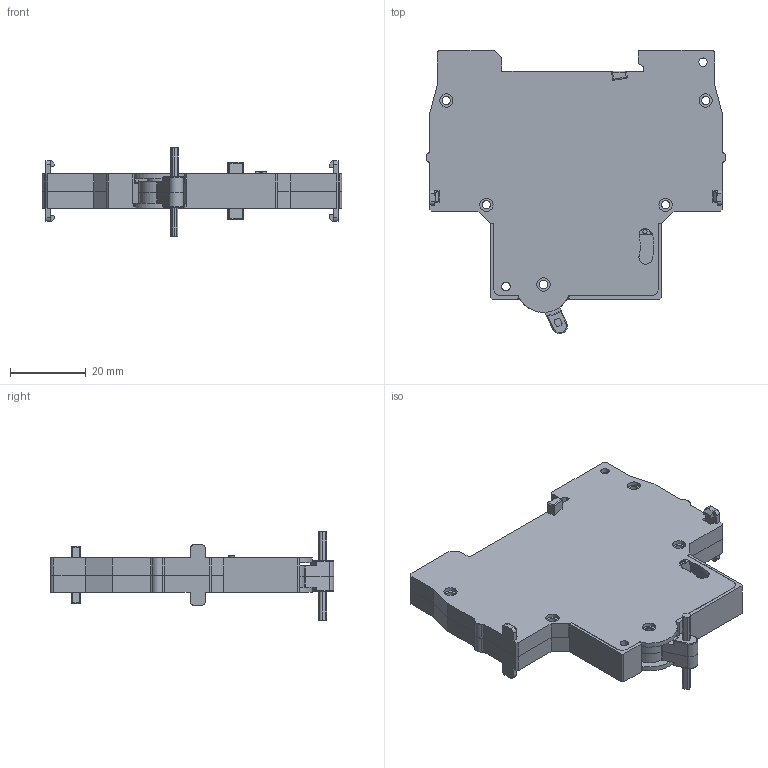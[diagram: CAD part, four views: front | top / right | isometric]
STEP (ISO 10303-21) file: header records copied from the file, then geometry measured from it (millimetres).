
FILE_DESCRIPTION((''),'2;1');
FILE_NAME('NXB-HS_ASM','2022-07-04T',('Administrator'),(''),'PRO/ENGINEER BY PARAMETRIC TECHNOLOGY CORPORATION, 2008380','PRO/ENGINEER BY PARAMETRIC TECHNOLOGY CORPORATION, 2008380','');
FILE_SCHEMA(('CONFIG_CONTROL_DESIGN'));
Length unit declared in the file: millimetre
Products named in the file (9): PRT0037; PRT0038; ASM0004_ASM_ASM; ASM0003_ASM_ASM; SHOUBING-XIA; SHOUBING-SHANG; HS-JIGOUXIA; HS-JIGOUSHANG; NXB-HS_ASM
Assembly tree (8 placements, depth 4):
  NXB-HS_ASM
    ASM0003_ASM_ASM
      ASM0004_ASM_ASM
        PRT0037
        PRT0038
    SHOUBING-XIA
    SHOUBING-SHANG
    HS-JIGOUXIA
    HS-JIGOUSHANG
Bounding box: 78.86 x 74.56 x 23.3 mm (x, y, z)
Volume: 16216.8 mm3; surface area: 25062.5 mm2
Topology: 6 solids, 6 shells, 835 faces, 2290 edges, 1506 vertices
Faces by surface type: cylinder 372, plane 360, torus 76, sphere 12, bspline 9, cone 6
Entity records: 27544 total; most frequent: CARTESIAN_POINT 5139, DIRECTION 4962, ORIENTED_EDGE 4556, EDGE_CURVE 2278, AXIS2_PLACEMENT_3D 1862, VERTEX_POINT 1506, VECTOR 1238, LINE 1238
